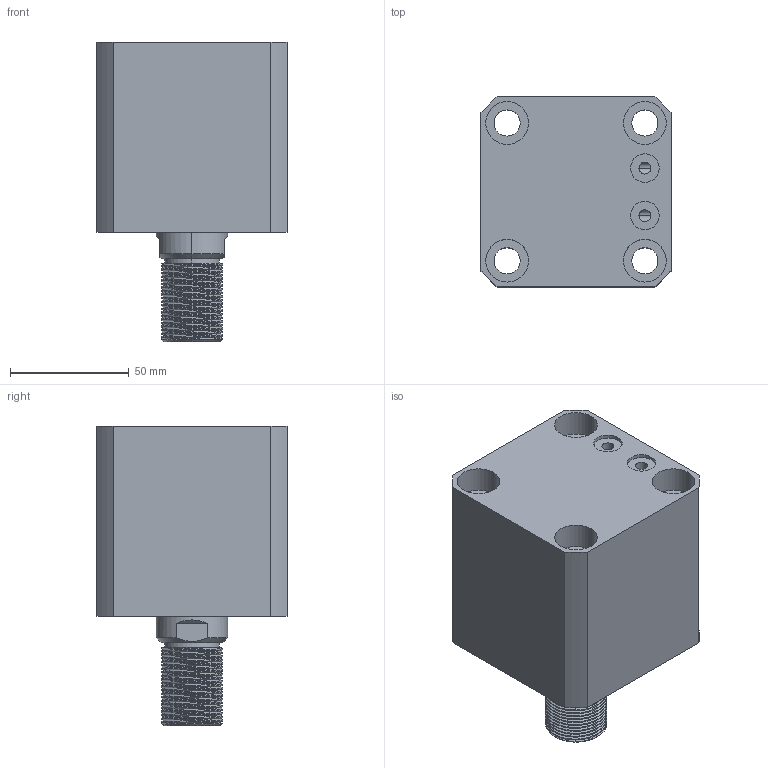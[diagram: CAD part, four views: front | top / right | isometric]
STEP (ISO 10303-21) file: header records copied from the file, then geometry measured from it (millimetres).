
FILE_DESCRIPTION (( 'STEP AP203' ), '1' );
FILE_NAME ('CHTB-SDMA50-20W.STEP', '2018-05-19T03:44:51', ( '' ), ( '' ), 'SwSTEP 2.0', 'SolidWorks 2015', '' );
FILE_SCHEMA (( 'CONFIG_CONTROL_DESIGN' ));
Length unit declared in the file: millimetre
Products named in the file (5): CHTM-SDMA50QG; 掛极SDMB50-20W; 活塞杆SDMB50-20W; M6; CHTB-SDMA50-20W
Assembly tree (5 placements, depth 2):
  CHTB-SDMA50-20W
    掛极SDMB50-20W
    活塞杆SDMB50-20W
    CHTM-SDMA50QG
    M6  x2
Bounding box: 80 x 80 x 126 mm (x, y, z)
Volume: 454156.3 mm3; surface area: 96705.1 mm2
Topology: 5 solids, 5 shells, 306 faces, 822 edges, 547 vertices
Faces by surface type: cylinder 175, plane 58, cone 29, bspline 28, torus 16
Entity records: 17707 total; most frequent: CARTESIAN_POINT 10946, ORIENTED_EDGE 1450, DIRECTION 1137, EDGE_CURVE 725, VERTEX_POINT 486, AXIS2_PLACEMENT_3D 456, EDGE_LOOP 313, ADVANCED_FACE 271
